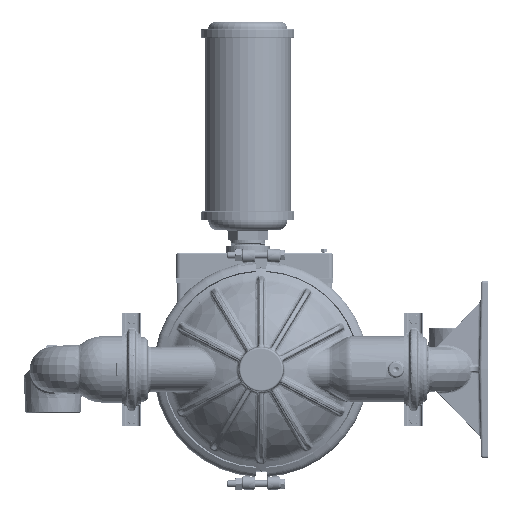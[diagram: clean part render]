
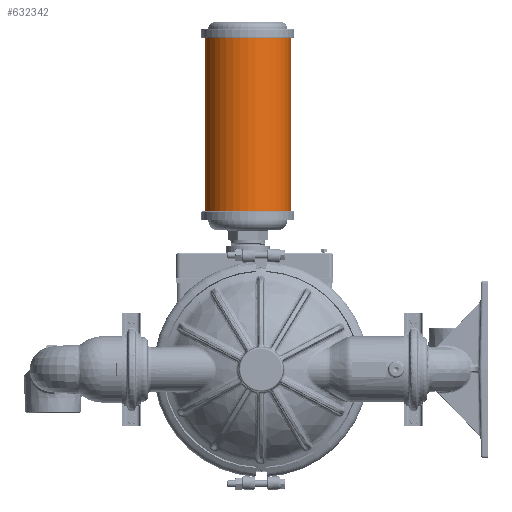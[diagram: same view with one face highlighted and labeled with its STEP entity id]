
A CAD part, left-side view. The second image highlights one B-rep face of the part: STEP entity #632342.
In plain terms, the highlighted cylindrical face has radius 61.722 mm (diameter 123.444 mm), a partial arc.
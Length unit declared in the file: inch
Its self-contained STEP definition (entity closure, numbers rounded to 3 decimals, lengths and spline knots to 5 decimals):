
#9311 = LINE ( 'NONE', #429034, #131798 ) ;
#16039 = EDGE_CURVE ( 'NONE', #422218, #421910, #610266, .T. ) ;
#28735 = FACE_OUTER_BOUND ( 'NONE', #561112, .T. ) ;
#58786 = VERTEX_POINT ( 'NONE', #650239 ) ;
#73842 = LINE ( 'NONE', #496997, #437543 ) ;
#126697 = ORIENTED_EDGE ( 'NONE', *, *, #589527, .T. ) ;
#128345 = ORIENTED_EDGE ( 'NONE', *, *, #642973, .T. ) ;
#131798 = VECTOR ( 'NONE', #435861, 39.37008 ) ;
#171133 = CIRCLE ( 'NONE', #558892, 2.43 ) ;
#177926 = DIRECTION ( 'NONE',  ( 0., -1., 0. ) ) ;
#227256 = CARTESIAN_POINT ( 'NONE',  ( 0., 0.75, 18.685 ) ) ;
#229931 = CYLINDRICAL_SURFACE ( 'NONE', #312872, 2.43 ) ;
#312872 = AXIS2_PLACEMENT_3D ( 'NONE', #441611, #653053, #177926 ) ;
#316455 = CARTESIAN_POINT ( 'NONE',  ( 0., -1.68, 18.685 ) ) ;
#328554 = CARTESIAN_POINT ( 'NONE',  ( 0., 0.75, 8.905 ) ) ;
#361384 = ORIENTED_EDGE ( 'NONE', *, *, #560544, .F. ) ;
#382647 = DIRECTION ( 'NONE',  ( 0., 0., 1. ) ) ;
#410849 = AXIS2_PLACEMENT_3D ( 'NONE', #227256, #438934, #591613 ) ;
#421910 = VERTEX_POINT ( 'NONE', #316455 ) ;
#422218 = VERTEX_POINT ( 'NONE', #506737 ) ;
#429034 = CARTESIAN_POINT ( 'NONE',  ( 0., 3.18, 8.905 ) ) ;
#435861 = DIRECTION ( 'NONE',  ( 0., 0., 1. ) ) ;
#437543 = VECTOR ( 'NONE', #382647, 39.37008 ) ;
#438934 = DIRECTION ( 'NONE',  ( 0., 0., 1. ) ) ;
#441611 = CARTESIAN_POINT ( 'NONE',  ( 0., 0.75, 20.1725 ) ) ;
#477974 = DIRECTION ( 'NONE',  ( 0., 1., 0. ) ) ;
#488165 = DIRECTION ( 'NONE',  ( 0., 0., 1. ) ) ;
#496997 = CARTESIAN_POINT ( 'NONE',  ( 0., -1.68, 8.905 ) ) ;
#506737 = CARTESIAN_POINT ( 'NONE',  ( 0., 3.18, 18.685 ) ) ;
#558892 = AXIS2_PLACEMENT_3D ( 'NONE', #328554, #488165, #477974 ) ;
#560544 = EDGE_CURVE ( 'NONE', #58786, #422218, #9311, .T. ) ;
#561112 = EDGE_LOOP ( 'NONE', ( #128345, #126697, #594526, #361384 ) ) ;
#583200 = CARTESIAN_POINT ( 'NONE',  ( 0., -1.68, 8.905 ) ) ;
#589527 = EDGE_CURVE ( 'NONE', #655116, #421910, #73842, .T. ) ;
#591613 = DIRECTION ( 'NONE',  ( 0., 1., 0. ) ) ;
#594526 = ORIENTED_EDGE ( 'NONE', *, *, #16039, .F. ) ;
#610266 = CIRCLE ( 'NONE', #410849, 2.43 ) ;
#632342 = ADVANCED_FACE ( 'NONE', ( #28735 ), #229931, .T. ) ;
#642973 = EDGE_CURVE ( 'NONE', #58786, #655116, #171133, .T. ) ;
#650239 = CARTESIAN_POINT ( 'NONE',  ( 0., 3.18, 8.905 ) ) ;
#653053 = DIRECTION ( 'NONE',  ( 0., 0., -1. ) ) ;
#655116 = VERTEX_POINT ( 'NONE', #583200 ) ;
